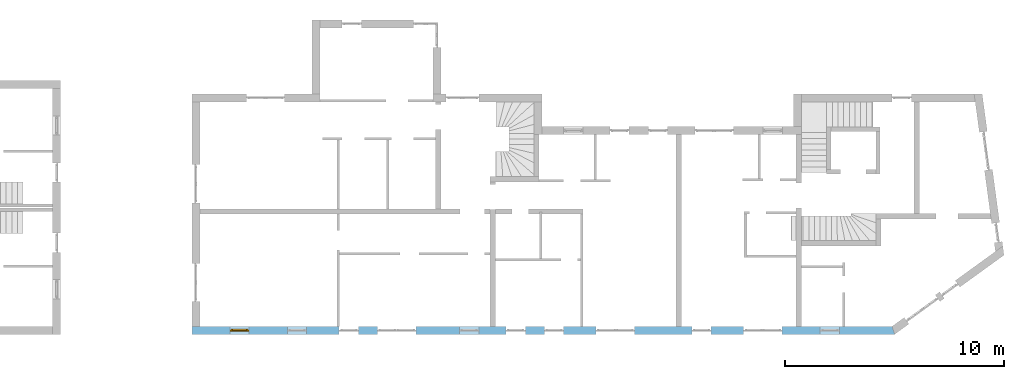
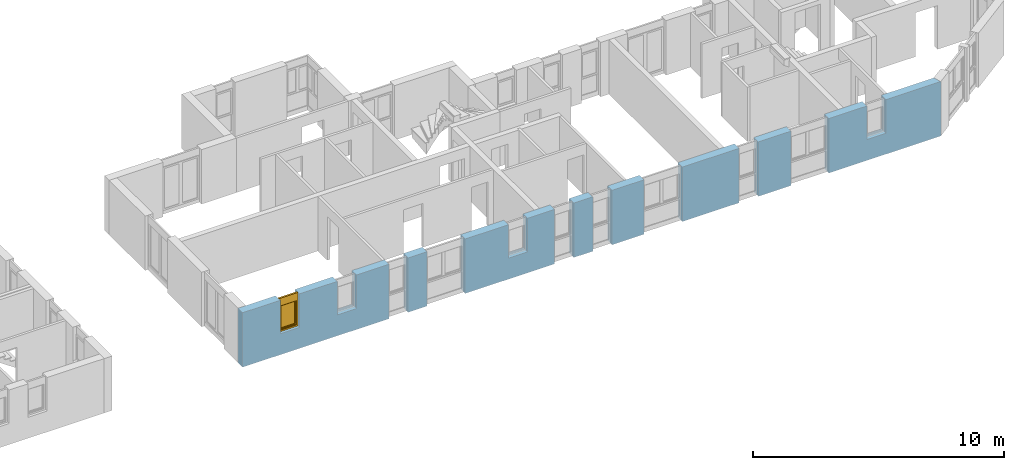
# One storey, part 28 of 42: 1 window, 11 openings, plus 1 element that does not belong to this part.
"""IFC2X3 building model written with IfcOpenShell, lengths in millimetres."""

from ifc_helpers import new_model, entity, si_unit, converted_unit, frame, frame_2d, origin, origin_with_axes, place, context, subcontext, project, spatial, polyline, rectangle, outline, extrude, faceted_brep, material, layer, layer_set, layer_usage, type_object, element, fill, save


model = new_model("IFC2X3")

# Units and contexts
model_context = context("Model", 3, precision=1e-05, world=origin())
body_context = subcontext(model_context, "Body", "Model", "MODEL_VIEW")
ifc_project = project(units=[si_unit("LENGTHUNIT", "METRE", prefix="MILLI"), converted_unit("PLANEANGLEUNIT", "DEGREE", entity("IfcPlaneAngleMeasure", 0.0174532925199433), si_unit("PLANEANGLEUNIT", "RADIAN"), dimensions=[0, 0, 0, 0, 0, 0, 0]), si_unit("AREAUNIT", "SQUARE_METRE"), si_unit("VOLUMEUNIT", "CUBIC_METRE")], contexts=[model_context])

# Building, storey
building_placement = place(None, origin())
building = spatial("IfcBuilding", under=ifc_project, at=building_placement, Name="Gebäude", CompositionType="ELEMENT")
storey_placement = place(building_placement, frame((0.0, 0.0, 2730.0), z_axis=(0.0, 0.0, 1.0), x_axis=(1.0, 0.0, 0.0)))
storey = spatial("IfcBuildingStorey", under=building, at=storey_placement, Name="OG.- Grundriss", CompositionType="ELEMENT", Elevation=2730.0)

# Wall, openings, window
ifc_material_1 = material(Name="Poroton")
ifc_layer = layer(ifc_material_1, 365.0000000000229)
ifc_layer_set = layer_set([ifc_layer])
ifc_layer_usage = layer_usage(ifc_layer_set, "AXIS2", "POSITIVE", 0.0)
wall_placement = place(storey_placement, frame((148357.7928067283, 125274.8877324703, 0.0), z_axis=(0.0, 0.0, 1.0), x_axis=(1.0, -2.749268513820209e-11, 0.0)))
wall = element("IfcWallStandardCase", 1, at=wall_placement, inside=storey, material=ifc_layer_usage, Name="<Unnamed Element>", context=body_context, shape_type="SweptSolid", body=[
    extrude(outline(polyline([(0.0, 0.0), (32144.99999877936, 0.0), (32026.74038666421, 365.0000000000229), (-1.003483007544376e-08, 365.0), (0.0, 0.0)])), origin_with_axes(), (0.0, 0.0, 1.0), 2650.0),
])
opening_1_placement = place(wall_placement, frame((22865.29648749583, -9.393166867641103e-11, 0.0), z_axis=(0.0, 1.0, 0.0), x_axis=(0.0, 0.0, 1.0)))
element("IfcOpeningElement", 2, at=opening_1_placement, cuts=wall, Name="Fensteröffnung", ObjectType="Opening", context=body_context, shape_type="SweptSolid", body=[
    extrude(rectangle(XDim=2650.0, YDim=885.0, at=frame_2d((1325.0, 442.5), x_axis=(1.0, 0.0))), origin_with_axes(), (0.0, 0.0, 1.0), 365.0000000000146),
])
opening_2_placement = place(wall_placement, frame((25240.29648749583, -1.030266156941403e-10, 0.0), z_axis=(0.0, 1.0, 0.0), x_axis=(0.0, 0.0, 1.0)))
element("IfcOpeningElement", 3, at=opening_2_placement, cuts=wall, Name="Fensteröffnung", ObjectType="Opening", context=body_context, shape_type="SweptSolid", body=[
    extrude(rectangle(XDim=2650.0, YDim=1760.0, at=frame_2d((1325.0, 880.0), x_axis=(1.0, 0.0))), origin_with_axes(), (0.0, 0.0, 1.0), 365.0000000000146),
])
opening_3_placement = place(wall_placement, frame((14365.26291869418, -5.847463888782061e-11, 0.0), z_axis=(0.0, 1.0, 0.0), x_axis=(0.0, 0.0, 1.0)))
element("IfcOpeningElement", 4, at=opening_3_placement, cuts=wall, Name="Fensteröffnung", ObjectType="Opening", context=body_context, shape_type="SweptSolid", body=[
    extrude(rectangle(XDim=2650.0, YDim=885.0, at=frame_2d((1325.0, 442.5), x_axis=(1.0, 0.0))), origin_with_axes(), (0.0, 0.0, 1.0), 365.0000000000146),
])
opening_4_placement = place(wall_placement, frame((16123.92212975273, -7.146586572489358e-11, 0.0), z_axis=(0.0, 1.0, 0.0), x_axis=(0.0, 0.0, 1.0)))
element("IfcOpeningElement", 5, at=opening_4_placement, cuts=wall, Name="Fensteröffnung", ObjectType="Opening", context=body_context, shape_type="SweptSolid", body=[
    extrude(rectangle(XDim=2650.0, YDim=885.0, at=frame_2d((1325.0, 442.5), x_axis=(1.0, 0.0))), origin_with_axes(), (0.0, 0.0, 1.0), 365.0000000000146),
])
opening_5_placement = place(wall_placement, frame((6739.999999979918, -3.114109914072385e-11, 0.0), z_axis=(0.0, 1.0, 0.0), x_axis=(0.0, 0.0, 1.0)))
element("IfcOpeningElement", 6, at=opening_5_placement, cuts=wall, Name="Fensteröffnung", ObjectType="Opening", context=body_context, shape_type="SweptSolid", body=[
    extrude(rectangle(XDim=2650.0, YDim=885.0, at=frame_2d((1325.0, 442.5), x_axis=(1.0, 0.0))), origin_with_axes(), (0.0, 0.0, 1.0), 365.0000000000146),
])
opening_6_placement = place(wall_placement, frame((8489.999999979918, -3.477907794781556e-11, 0.0), z_axis=(0.0, 1.0, 0.0), x_axis=(0.0, 0.0, 1.0)))
element("IfcOpeningElement", 7, at=opening_6_placement, cuts=wall, Name="Fensteröffnung", ObjectType="Opening", context=body_context, shape_type="SweptSolid", body=[
    extrude(rectangle(XDim=2650.0, YDim=1760.0, at=frame_2d((1325.0, 880.0), x_axis=(1.0, 0.0))), origin_with_axes(), (0.0, 0.0, 1.0), 365.0000000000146),
])
opening_7_placement = place(wall_placement, frame((1740.0, -3.114109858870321e-11, 1020.0), z_axis=(0.0, 1.0, 0.0), x_axis=(0.0, 0.0, 1.0)))
opening_7 = element("IfcOpeningElement", 8, at=opening_7_placement, cuts=wall, Name="Fensteröffnung", ObjectType="Opening", context=body_context, shape_type="SweptSolid", body=[
    extrude(rectangle(XDim=1630.0, YDim=885.0, at=frame_2d((815.0, 442.5), x_axis=(1.0, 0.0))), origin_with_axes(), (0.0, 0.0, 1.0), 365.0000000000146),
])
opening_8_placement = place(wall_placement, frame((4365.0, -7.494236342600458e-12, 1020.0), z_axis=(0.0, 1.0, 0.0), x_axis=(0.0, 0.0, 1.0)))
element("IfcOpeningElement", 9, at=opening_8_placement, cuts=wall, Name="Fensteröffnung", ObjectType="Opening", context=body_context, shape_type="SweptSolid", body=[
    extrude(rectangle(XDim=1630.0, YDim=885.0, at=frame_2d((815.0, 442.5), x_axis=(1.0, 0.0))), origin_with_axes(), (0.0, 0.0, 1.0), 365.0000000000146),
])
opening_9_placement = place(wall_placement, frame((12240.0, -5.296897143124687e-11, 1020.0), z_axis=(0.0, 1.0, 0.0), x_axis=(0.0, 0.0, 1.0)))
element("IfcOpeningElement", 10, at=opening_9_placement, cuts=wall, Name="Fensteröffnung", ObjectType="Opening", context=body_context, shape_type="SweptSolid", body=[
    extrude(rectangle(XDim=1630.0, YDim=885.0, at=frame_2d((815.0, 442.5), x_axis=(1.0, 0.0))), origin_with_axes(), (0.0, 0.0, 1.0), 365.0000000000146),
])
opening_10_placement = place(wall_placement, frame((18490.51063065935, -4.984640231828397e-11, 0.0), z_axis=(0.0, 1.0, 0.0), x_axis=(0.0, 0.0, 1.0)))
element("IfcOpeningElement", 11, at=opening_10_placement, cuts=wall, Name="Fensteröffnung", ObjectType="Opening", context=body_context, shape_type="SweptSolid", body=[
    extrude(rectangle(XDim=2650.0, YDim=1760.0, at=frame_2d((1325.0, 880.0), x_axis=(1.0, 0.0))), origin_with_axes(), (0.0, 0.0, 1.0), 365.0000000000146),
])
opening_11_placement = place(wall_placement, frame((28740.29648749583, -1.103025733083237e-10, 1020.0), z_axis=(0.0, 1.0, 0.0), x_axis=(0.0, 0.0, 1.0)))
element("IfcOpeningElement", 12, at=opening_11_placement, cuts=wall, Name="Fensteröffnung", ObjectType="Opening", context=body_context, shape_type="SweptSolid", body=[
    extrude(rectangle(XDim=1630.0, YDim=885.0, at=frame_2d((815.0, 442.5), x_axis=(1.0, 0.0))), origin_with_axes(), (0.0, 0.0, 1.0), 365.0000000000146),
])
ifc_material_2 = material()
window_style = type_object("IfcWindowStyle", Name="Fenster", ConstructionType="NOTDEFINED", OperationType="USERDEFINED", ParameterTakesPrecedence=False, Sizeable=False)
window_placement = place(opening_7_placement, frame((0.0, 0.0, 0.0), z_axis=(1.0, 0.0, 0.0), x_axis=(0.0, 1.0, 0.0)))
window = element("IfcWindow", 13, at=window_placement, inside=storey, type_object=window_style, material=ifc_material_2, Name="Fenster", OverallHeight=1630.0, OverallWidth=885.0, context=body_context, shape_type="Brep", body=[
    faceted_brep([(-1.221113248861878e-08, 200.000000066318, 1630.0), (-1.221113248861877e-08, 200.0000000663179, -2.449293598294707e-15), (69.99999998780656, 200.0000000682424, -2.449293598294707e-15), (69.99999998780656, 200.0000000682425, 1630.0), (-1.001171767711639e-08, 120.0000000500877, 2.449293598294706e-15), (-1.00117176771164e-08, 120.0000000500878, 1630.0), (69.99999999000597, 120.0000000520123, 1630.0), (69.99999999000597, 120.0000000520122, 2.449293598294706e-15), (-1.221113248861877e-08, 200.0000000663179, -2.449293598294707e-15), (-1.221113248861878e-08, 200.000000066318, 1630.0), (-1.00117176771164e-08, 120.0000000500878, 1630.0), (-1.001171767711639e-08, 120.0000000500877, 2.449293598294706e-15), (69.99999998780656, 200.0000000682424, -2.449293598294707e-15), (-1.221113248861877e-08, 200.0000000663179, -2.449293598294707e-15), (-1.001171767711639e-08, 120.0000000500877, 2.449293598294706e-15), (69.99999999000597, 120.0000000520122, 2.449293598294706e-15), (69.99999998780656, 200.0000000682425, 1630.0), (69.99999998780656, 200.0000000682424, -2.449293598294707e-15), (69.99999999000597, 120.0000000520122, 2.449293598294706e-15), (69.99999999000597, 120.0000000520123, 1630.0), (-1.221113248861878e-08, 200.000000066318, 1630.0), (69.99999998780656, 200.0000000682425, 1630.0), (69.99999999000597, 120.0000000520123, 1630.0), (-1.00117176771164e-08, 120.0000000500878, 1630.0)], [[[0, 1, 2, 3]], [[4, 5, 6, 7]], [[8, 9, 10, 11]], [[12, 13, 14, 15]], [[16, 17, 18, 19]], [[20, 21, 22, 23]]], orient=[[False], [False], [False], [False], [False], [False]]),
    faceted_brep([(814.9999999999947, 200.0000000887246, 1630.0), (814.9999999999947, 200.0000000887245, -2.449293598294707e-15), (885.0000000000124, 200.0000000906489, -2.449293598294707e-15), (885.0000000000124, 200.0000000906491, 1630.0), (815.000000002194, 120.0000000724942, 2.449293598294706e-15), (815.000000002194, 120.0000000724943, 1630.0), (885.0000000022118, 120.0000000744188, 1630.0), (885.0000000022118, 120.0000000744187, 2.449293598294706e-15), (814.9999999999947, 200.0000000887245, -2.449293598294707e-15), (814.9999999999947, 200.0000000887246, 1630.0), (815.000000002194, 120.0000000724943, 1630.0), (815.000000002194, 120.0000000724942, 2.449293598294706e-15), (885.0000000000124, 200.0000000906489, -2.449293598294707e-15), (814.9999999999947, 200.0000000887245, -2.449293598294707e-15), (815.000000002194, 120.0000000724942, 2.449293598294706e-15), (885.0000000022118, 120.0000000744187, 2.449293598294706e-15), (885.0000000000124, 200.0000000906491, 1630.0), (885.0000000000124, 200.0000000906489, -2.449293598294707e-15), (885.0000000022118, 120.0000000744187, 2.449293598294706e-15), (885.0000000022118, 120.0000000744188, 1630.0), (814.9999999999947, 200.0000000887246, 1630.0), (885.0000000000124, 200.0000000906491, 1630.0), (885.0000000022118, 120.0000000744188, 1630.0), (815.000000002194, 120.0000000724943, 1630.0)], [[[0, 1, 2, 3]], [[4, 5, 6, 7]], [[8, 9, 10, 11]], [[12, 13, 14, 15]], [[16, 17, 18, 19]], [[20, 21, 22, 23]]], orient=[[False], [False], [False], [False], [False], [False]]),
    faceted_brep([(69.99999998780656, 200.0000000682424, 69.99999999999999), (69.99999998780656, 200.0000000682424, -2.449293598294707e-15), (814.9999999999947, 200.0000000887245, -2.449293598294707e-15), (814.9999999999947, 200.0000000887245, 69.99999999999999), (69.99999999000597, 120.0000000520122, 2.449293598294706e-15), (69.99999999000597, 120.0000000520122, 69.99999999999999), (815.000000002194, 120.0000000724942, 69.99999999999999), (815.000000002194, 120.0000000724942, 2.449293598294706e-15), (69.99999998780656, 200.0000000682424, -2.449293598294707e-15), (69.99999998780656, 200.0000000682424, 69.99999999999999), (69.99999999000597, 120.0000000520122, 69.99999999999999), (69.99999999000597, 120.0000000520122, 2.449293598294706e-15), (814.9999999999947, 200.0000000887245, -2.449293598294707e-15), (69.99999998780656, 200.0000000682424, -2.449293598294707e-15), (69.99999999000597, 120.0000000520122, 2.449293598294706e-15), (815.000000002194, 120.0000000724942, 2.449293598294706e-15), (814.9999999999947, 200.0000000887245, 69.99999999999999), (814.9999999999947, 200.0000000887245, -2.449293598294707e-15), (815.000000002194, 120.0000000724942, 2.449293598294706e-15), (815.000000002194, 120.0000000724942, 69.99999999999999), (69.99999998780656, 200.0000000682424, 69.99999999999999), (814.9999999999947, 200.0000000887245, 69.99999999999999), (815.000000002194, 120.0000000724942, 69.99999999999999), (69.99999999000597, 120.0000000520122, 69.99999999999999)], [[[0, 1, 2, 3]], [[4, 5, 6, 7]], [[8, 9, 10, 11]], [[12, 13, 14, 15]], [[16, 17, 18, 19]], [[20, 21, 22, 23]]], orient=[[False], [False], [False], [False], [False], [False]]),
    faceted_brep([(69.99999998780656, 200.0000000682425, 1630.0), (69.99999998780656, 200.0000000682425, 1260.0), (814.9999999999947, 200.0000000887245, 1260.0), (814.9999999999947, 200.0000000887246, 1630.0), (69.99999999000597, 120.0000000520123, 1260.0), (69.99999999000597, 120.0000000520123, 1630.0), (815.000000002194, 120.0000000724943, 1630.0), (815.000000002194, 120.0000000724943, 1260.0), (69.99999998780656, 200.0000000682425, 1260.0), (69.99999998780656, 200.0000000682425, 1630.0), (69.99999999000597, 120.0000000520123, 1630.0), (69.99999999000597, 120.0000000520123, 1260.0), (814.9999999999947, 200.0000000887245, 1260.0), (69.99999998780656, 200.0000000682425, 1260.0), (69.99999999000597, 120.0000000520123, 1260.0), (815.000000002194, 120.0000000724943, 1260.0), (814.9999999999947, 200.0000000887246, 1630.0), (814.9999999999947, 200.0000000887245, 1260.0), (815.000000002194, 120.0000000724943, 1260.0), (815.000000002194, 120.0000000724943, 1630.0), (69.99999998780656, 200.0000000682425, 1630.0), (814.9999999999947, 200.0000000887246, 1630.0), (815.000000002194, 120.0000000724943, 1630.0), (69.99999999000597, 120.0000000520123, 1630.0)], [[[0, 1, 2, 3]], [[4, 5, 6, 7]], [[8, 9, 10, 11]], [[12, 13, 14, 15]], [[16, 17, 18, 19]], [[20, 21, 22, 23]]], orient=[[False], [False], [False], [False], [False], [False]]),
    faceted_brep([(49.9999999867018, 240.0000000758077, 1280.0), (49.9999999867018, 240.0000000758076, 49.99999999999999), (119.9999999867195, 240.0000000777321, 49.99999999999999), (119.9999999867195, 240.0000000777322, 1280.0), (49.99999998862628, 170.0000000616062, 50.0), (49.99999998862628, 170.0000000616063, 1280.0), (119.999999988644, 170.0000000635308, 1280.0), (119.999999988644, 170.0000000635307, 50.0), (49.9999999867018, 240.0000000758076, 49.99999999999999), (49.9999999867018, 240.0000000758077, 1280.0), (49.99999998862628, 170.0000000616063, 1280.0), (49.99999998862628, 170.0000000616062, 50.0), (119.9999999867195, 240.0000000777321, 49.99999999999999), (49.9999999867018, 240.0000000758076, 49.99999999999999), (49.99999998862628, 170.0000000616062, 50.0), (119.999999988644, 170.0000000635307, 50.0), (119.9999999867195, 240.0000000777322, 1280.0), (119.9999999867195, 240.0000000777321, 49.99999999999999), (119.999999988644, 170.0000000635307, 50.0), (119.999999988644, 170.0000000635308, 1280.0), (49.9999999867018, 240.0000000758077, 1280.0), (119.9999999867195, 240.0000000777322, 1280.0), (119.999999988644, 170.0000000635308, 1280.0), (49.99999998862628, 170.0000000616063, 1280.0)], [[[0, 1, 2, 3]], [[4, 5, 6, 7]], [[8, 9, 10, 11]], [[12, 13, 14, 15]], [[16, 17, 18, 19]], [[20, 21, 22, 23]]], orient=[[False], [False], [False], [False], [False], [False]]),
    faceted_brep([(764.9999999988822, 240.000000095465, 1280.0), (764.9999999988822, 240.0000000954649, 49.99999999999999), (834.9999999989, 240.0000000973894, 49.99999999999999), (834.9999999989, 240.0000000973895, 1280.0), (765.0000000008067, 170.0000000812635, 50.0), (765.0000000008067, 170.0000000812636, 1280.0), (835.0000000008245, 170.000000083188, 1280.0), (835.0000000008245, 170.000000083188, 50.0), (764.9999999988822, 240.0000000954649, 49.99999999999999), (764.9999999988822, 240.000000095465, 1280.0), (765.0000000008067, 170.0000000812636, 1280.0), (765.0000000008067, 170.0000000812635, 50.0), (834.9999999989, 240.0000000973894, 49.99999999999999), (764.9999999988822, 240.0000000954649, 49.99999999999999), (765.0000000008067, 170.0000000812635, 50.0), (835.0000000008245, 170.000000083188, 50.0), (834.9999999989, 240.0000000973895, 1280.0), (834.9999999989, 240.0000000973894, 49.99999999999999), (835.0000000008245, 170.000000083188, 50.0), (835.0000000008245, 170.000000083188, 1280.0), (764.9999999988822, 240.000000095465, 1280.0), (834.9999999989, 240.0000000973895, 1280.0), (835.0000000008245, 170.000000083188, 1280.0), (765.0000000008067, 170.0000000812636, 1280.0)], [[[0, 1, 2, 3]], [[4, 5, 6, 7]], [[8, 9, 10, 11]], [[12, 13, 14, 15]], [[16, 17, 18, 19]], [[20, 21, 22, 23]]], orient=[[False], [False], [False], [False], [False], [False]]),
    faceted_brep([(119.9999999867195, 240.0000000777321, 120.0), (119.9999999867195, 240.0000000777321, 49.99999999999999), (764.9999999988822, 240.0000000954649, 49.99999999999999), (764.9999999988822, 240.0000000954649, 120.0), (119.999999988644, 170.0000000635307, 50.0), (119.999999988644, 170.0000000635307, 120.0), (765.0000000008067, 170.0000000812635, 120.0), (765.0000000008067, 170.0000000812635, 50.0), (119.9999999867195, 240.0000000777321, 49.99999999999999), (119.9999999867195, 240.0000000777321, 120.0), (119.999999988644, 170.0000000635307, 120.0), (119.999999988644, 170.0000000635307, 50.0), (764.9999999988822, 240.0000000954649, 49.99999999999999), (119.9999999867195, 240.0000000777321, 49.99999999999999), (119.999999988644, 170.0000000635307, 50.0), (765.0000000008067, 170.0000000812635, 50.0), (764.9999999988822, 240.0000000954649, 120.0), (764.9999999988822, 240.0000000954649, 49.99999999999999), (765.0000000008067, 170.0000000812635, 50.0), (765.0000000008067, 170.0000000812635, 120.0), (119.9999999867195, 240.0000000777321, 120.0), (764.9999999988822, 240.0000000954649, 120.0), (765.0000000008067, 170.0000000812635, 120.0), (119.999999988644, 170.0000000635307, 120.0)], [[[0, 1, 2, 3]], [[4, 5, 6, 7]], [[8, 9, 10, 11]], [[12, 13, 14, 15]], [[16, 17, 18, 19]], [[20, 21, 22, 23]]], orient=[[False], [False], [False], [False], [False], [False]]),
    faceted_brep([(119.9999999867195, 240.0000000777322, 1280.0), (119.9999999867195, 240.0000000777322, 1210.0), (764.9999999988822, 240.000000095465, 1210.0), (764.9999999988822, 240.000000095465, 1280.0), (119.999999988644, 170.0000000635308, 1210.0), (119.999999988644, 170.0000000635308, 1280.0), (765.0000000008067, 170.0000000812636, 1280.0), (765.0000000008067, 170.0000000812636, 1210.0), (119.9999999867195, 240.0000000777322, 1210.0), (119.9999999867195, 240.0000000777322, 1280.0), (119.999999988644, 170.0000000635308, 1280.0), (119.999999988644, 170.0000000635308, 1210.0), (764.9999999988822, 240.000000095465, 1210.0), (119.9999999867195, 240.0000000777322, 1210.0), (119.999999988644, 170.0000000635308, 1210.0), (765.0000000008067, 170.0000000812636, 1210.0), (764.9999999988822, 240.000000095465, 1280.0), (764.9999999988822, 240.000000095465, 1210.0), (765.0000000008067, 170.0000000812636, 1210.0), (765.0000000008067, 170.0000000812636, 1280.0), (119.9999999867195, 240.0000000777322, 1280.0), (764.9999999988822, 240.000000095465, 1280.0), (765.0000000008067, 170.0000000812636, 1280.0), (119.999999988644, 170.0000000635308, 1280.0)], [[[0, 1, 2, 3]], [[4, 5, 6, 7]], [[8, 9, 10, 11]], [[12, 13, 14, 15]], [[16, 17, 18, 19]], [[20, 21, 22, 23]]], orient=[[False], [False], [False], [False], [False], [False]]),
    faceted_brep([(119.9999999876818, 205.0000000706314, 120.0), (764.9999999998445, 205.0000000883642, 120.0), (764.9999999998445, 205.0000000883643, 1210.0), (119.9999999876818, 205.0000000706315, 1210.0), (119.9999999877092, 204.0000000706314, 120.0), (119.9999999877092, 204.0000000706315, 1210.0), (764.999999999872, 204.0000000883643, 1210.0), (764.999999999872, 204.0000000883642, 120.0), (119.9999999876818, 205.0000000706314, 120.0), (119.9999999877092, 204.0000000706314, 120.0), (764.999999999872, 204.0000000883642, 120.0), (764.9999999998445, 205.0000000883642, 120.0), (764.9999999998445, 205.0000000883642, 120.0), (764.999999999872, 204.0000000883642, 120.0), (764.999999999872, 204.0000000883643, 1210.0), (764.9999999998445, 205.0000000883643, 1210.0), (764.9999999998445, 205.0000000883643, 1210.0), (764.999999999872, 204.0000000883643, 1210.0), (119.9999999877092, 204.0000000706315, 1210.0), (119.9999999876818, 205.0000000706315, 1210.0), (119.9999999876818, 205.0000000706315, 1210.0), (119.9999999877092, 204.0000000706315, 1210.0), (119.9999999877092, 204.0000000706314, 120.0), (119.9999999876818, 205.0000000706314, 120.0)], [[[0, 1, 2, 3]], [[4, 5, 6, 7]], [[8, 9, 10, 11]], [[12, 13, 14, 15]], [[16, 17, 18, 19]], [[20, 21, 22, 23]]], orient=[[False], [False], [False], [False], [False], [False]]),
])
fill(opening_7, window)

save(model, "model.ifc")
